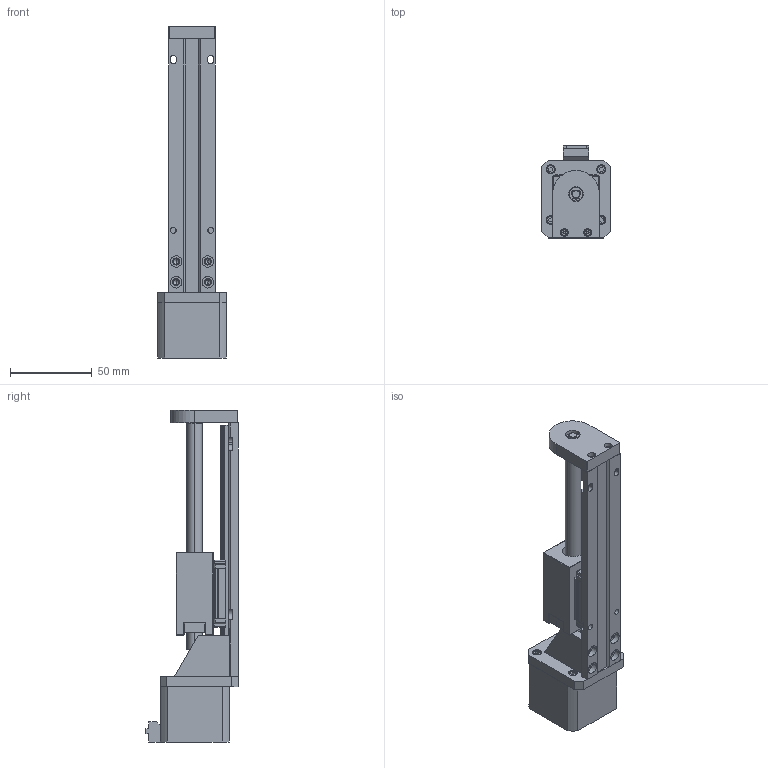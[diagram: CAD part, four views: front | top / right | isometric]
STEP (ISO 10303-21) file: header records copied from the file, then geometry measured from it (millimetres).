
FILE_DESCRIPTION (( 'STEP AP214' ), '1' );
FILE_NAME ('AMETEK-BGS06BR-M43-0050-03.00-0.9-2.33-SS-0000-CN-130-0.STEP', '2022-03-08T09:05:42', ( '' ), ( '' ), 'SwSTEP 2.0', 'SolidWorks 2021', '' );
FILE_SCHEMA (( 'AUTOMOTIVE_DESIGN' ));
Length unit declared in the file: inch
Products named in the file (13): 43000_External_Linear_Connector; 00-BGS06_26-2403; BGS06-1MR9-ML; 01-XXXX_43S; 26-RBS06ES; BGS06-1-9ML; 01-1023; 26-RBS06MP_size 17; AMETEK-BGS06BR-M43-0050-03.00-0.9-2.33-SS-0000-CN-130-0; 61-310_61-310; 01-3330_01-3330; 26-Carriage Assem Revised; 61-257_61-257-6
Assembly tree (16 placements, depth 2):
  AMETEK-BGS06BR-M43-0050-03.00-0.9-2.33-SS-0000-CN-130-0
    43000_External_Linear_Connector
    01-XXXX_43S
    26-RBS06MP_size 17
    00-BGS06_26-2403
    26-RBS06ES
    61-257_61-257-6
    61-310_61-310
    01-1023  x4
    01-3330_01-3330  x2
    BGS06-1MR9-ML
    BGS06-1-9ML
    26-Carriage Assem Revised
Bounding box: 42.2 x 56.91 x 203.66 mm (x, y, z)
Volume: 127321.5 mm3; surface area: 60227.8 mm2
Topology: 15 solids, 24 shells, 845 faces, 2136 edges, 1364 vertices
Faces by surface type: cylinder 393, plane 364, cone 76, torus 8, bspline 4
Entity records: 27910 total; most frequent: CARTESIAN_POINT 6490, DIRECTION 3475, ORIENTED_EDGE 3416, EDGE_CURVE 1744, AXIS2_PLACEMENT_3D 1231, VERTEX_POINT 1116, LINE 1013, VECTOR 1013
